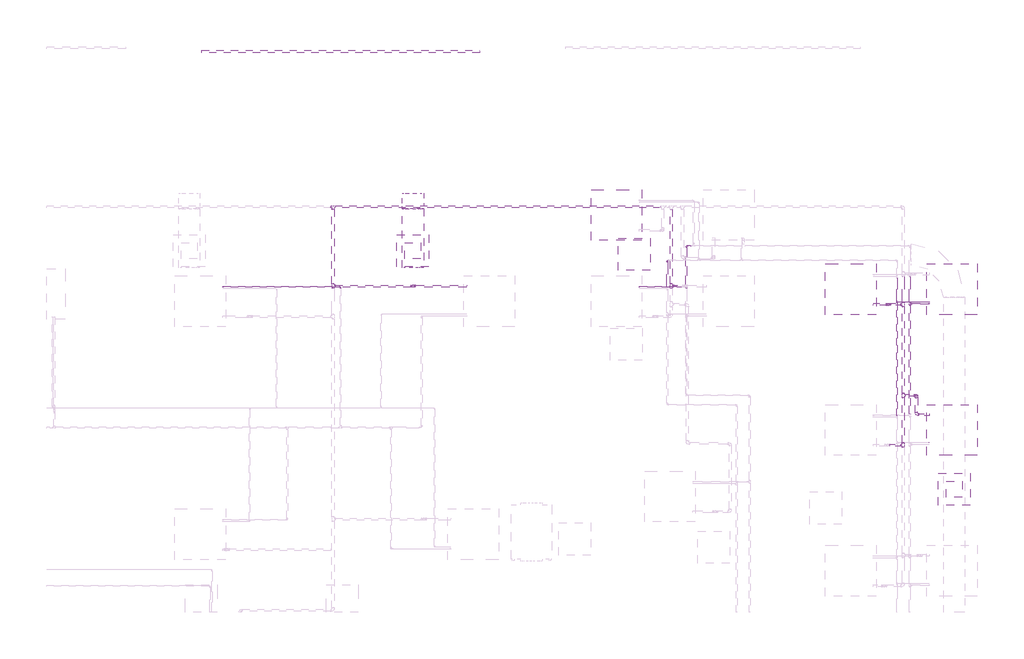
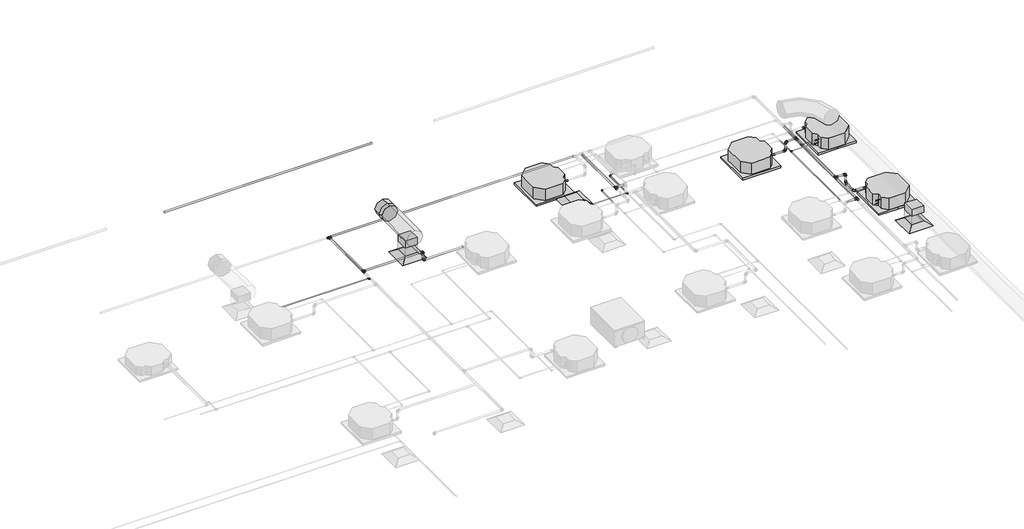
# One storey, part 21 of 22: 30 pipe segments, 26 pipe fittings, 4 proxies, 3 air terminals, 3 duct fittings, 3 duct segments.
"""IFC4 building model written with IfcOpenShell, lengths in millimetres."""

from ifc_helpers import new_model, si_unit, point, frame, frame_2d, origin, place, context, project, spatial, polyline, circle_curve, trimmed, segment, composite_curve, outline, extrude, transform, mapped, element, save
from components import air_terminal_ff221211, mechanical_equipment_53173f38, duct_fitting_2eb95573, duct_fitting_95c1ddea, pipe_fitting_144f4440, pipe_fitting_14eb6376, pipe_fitting_bdfb9b50, pipe_fitting_b7b67514, pipe_fitting_c900cfc2, pipe_fitting_16c020f5, pipe_fitting_0e110a5f, pipe_fitting_afe73776, pipe_fitting_09966660, pipe_fitting_501e5992, pipe_fitting_58ab9b66, pipe_fitting_da16c1b3, pipe_fitting_5a6d96d3, pipe_fitting_3e80353c

model = new_model("IFC4")

# Units and contexts
model_context = context("Model", 3, world=origin())
ifc_project = project(units=[si_unit("LENGTHUNIT", "METRE", prefix="MILLI")], contexts=[model_context])

# Site, building, storey
site = spatial("IfcSite", under=ifc_project)
building = spatial("IfcBuilding", under=site)
storey = spatial("IfcBuildingStorey", under=building, Name="Nível 2", Elevation=3880.0)

# Air terminals
placement = place(None, origin())
air_terminal_shape = air_terminal_ff221211(model_context)
element("IfcAirTerminal", 1, ObjectType="M_Difusor de retorno : 600 x 600 Face 300 x 300 Conexão", at=placement, inside=storey, context=model_context, shape_type="MappedRepresentation", body=[
    mapped(air_terminal_shape, transform((19991.1447848, 8685.9308948, 6880.0), x_axis=(-1.0, 0.0, 0.0), y_axis=(0.0, -1.0, 0.0), z_axis=(0.0, 0.0, 1.0))),
])
element("IfcAirTerminal", 2, ObjectType="M_Difusor de fornecimento : 600 x 600 Face 300 x 300 Conexão", at=placement, inside=storey, context=model_context, shape_type="MappedRepresentation", body=[
    mapped(air_terminal_shape, transform((24131.0509329, 8616.6989842, 6880.0), x_axis=(0.0, 1.0, 0.0), y_axis=(-1.0, 0.0, 0.0), z_axis=(0.0, 0.0, 1.0))),
])
element("IfcAirTerminal", 3, ObjectType="M_Difusor de fornecimento : 600 x 600 Face 300 x 300 Conexão", at=placement, inside=storey, context=model_context, shape_type="MappedRepresentation", body=[
    mapped(air_terminal_shape, transform((30114.7064473, 4222.1140408, 6880.0), x_axis=(-1.0, 0.0, 0.0), y_axis=(0.0, -1.0, 0.0), z_axis=(0.0, 0.0, 1.0))),
])

# Proxies
mechanical_equipment_shape = mechanical_equipment_53173f38(model_context)
element("IfcBuildingElementProxy", 4, Name="Midea_VRF_Indoor_4-way Cassette_MI-90(100,112,140)Q4_DHN1-D (2nd DC) : MI2-140Q4DHN1", ObjectType="Midea_VRF_Indoor_4-way Cassette_MI-90(100,112,140)Q4_DHN1-D (2nd DC) : MI2-140Q4DHN1", at=placement, inside=storey, context=model_context, shape_type="MappedRepresentation", body=[
    mapped(mechanical_equipment_shape, transform((23797.5040419, 9352.7445682, 6880.0), x_axis=(1.0, 0.0, 0.0), y_axis=(0.0, 1.0, 0.0), z_axis=(0.0, 0.0, 1.0))),
])
element("IfcBuildingElementProxy", 5, Name="Midea_VRF_Indoor_4-way Cassette_MI-90(100,112,140)Q4_DHN1-D (2nd DC) : MI2-140Q4DHN1", ObjectType="Midea_VRF_Indoor_4-way Cassette_MI-90(100,112,140)Q4_DHN1-D (2nd DC) : MI2-140Q4DHN1", at=placement, inside=storey, context=model_context, shape_type="MappedRepresentation", body=[
    mapped(mechanical_equipment_shape, transform((30073.0094066, 5335.03247, 6880.0), x_axis=(-1.0, 0.0, 0.0), y_axis=(0.0, -1.0, 0.0), z_axis=(0.0, 0.0, 1.0))),
])
element("IfcBuildingElementProxy", 6, Name="Midea_VRF_Indoor_4-way Cassette_MI-90(100,112,140)Q4_DHN1-D (2nd DC) : MI2-140Q4DHN1", ObjectType="Midea_VRF_Indoor_4-way Cassette_MI-90(100,112,140)Q4_DHN1-D (2nd DC) : MI2-140Q4DHN1", at=placement, inside=storey, context=model_context, shape_type="MappedRepresentation", body=[
    mapped(mechanical_equipment_shape, transform((28178.6922103, 7966.525628, 6880.0), x_axis=(1.0, 0.0, 0.0), y_axis=(0.0, 1.0, 0.0), z_axis=(0.0, 0.0, 1.0))),
])
element("IfcBuildingElementProxy", 7, Name="Midea_VRF_Indoor_4-way Cassette_MI-90(100,112,140)Q4_DHN1-D (2nd DC) : MI2-140Q4DHN1", ObjectType="Midea_VRF_Indoor_4-way Cassette_MI-90(100,112,140)Q4_DHN1-D (2nd DC) : MI2-140Q4DHN1", at=placement, inside=storey, context=model_context, shape_type="MappedRepresentation", body=[
    mapped(mechanical_equipment_shape, transform((30073.0094066, 7966.525628, 6880.0), x_axis=(-1.0, 0.0, 0.0), y_axis=(0.0, -1.0, 0.0), z_axis=(0.0, 0.0, 1.0))),
])

# Duct fittings
duct_fitting_shape = duct_fitting_2eb95573(model_context)
element("IfcDuctFitting", 8, ObjectType="M_Encaixe de duto redondo : Padrão", at=placement, inside=storey, context=model_context, shape_type="MappedRepresentation", body=[
    mapped(duct_fitting_shape, transform((19991.1447848, 9569.8368648, 7501.0), x_axis=(0.0, -1.0, 0.0), y_axis=(-1.0, 0.0, 0.0), z_axis=(0.0, 0.0, -1.0))),
])
duct_fitting_2_shape = duct_fitting_95c1ddea(model_context)
element("IfcDuctFitting", 9, ObjectType="M_Encaixe de duto retangular : Padrão", at=placement, inside=storey, context=model_context, shape_type="MappedRepresentation", body=[
    mapped(duct_fitting_2_shape, transform((30114.7064473, 4222.1140408, 7301.0), x_axis=(0.0, 0.0, -1.0), y_axis=(0.0, 1.0, 0.0), z_axis=(1.0, 0.0, 0.0))),
])
element("IfcDuctFitting", 10, ObjectType="M_Encaixe de duto retangular : Padrão", at=placement, inside=storey, context=model_context, shape_type="MappedRepresentation", body=[
    mapped(duct_fitting_2_shape, transform((19991.1447848, 8685.9308948, 7301.0), x_axis=(0.0, 0.0, -1.0), y_axis=(0.0, 1.0, 0.0), z_axis=(1.0, 0.0, 0.0))),
])

# Duct segments
element("IfcDuctSegment", 11, ObjectType="Raios cotovelos / torneiras", at=placement, inside=storey, context=model_context, shape_type="SweptSolid", body=[
    extrude(outline(polyline([(29964.7064473, 4072.1140408), (29964.7064473, 4372.1140408), (30264.7064473, 4372.1140408), (30264.7064473, 4072.1140408), (29964.7064473, 4072.1140408)])), frame((0.0, 0.0, 6981.6), z_axis=(0.0, 0.0, 1.0), x_axis=(1.0, 0.0, 0.0)), (0.0, 0.0, 1.0), 217.8),
])
element("IfcDuctSegment", 12, ObjectType="Torneiras / Raio curto", at=placement, inside=storey, context=model_context, shape_type="SweptSolid", body=[
    extrude(outline(composite_curve([segment(trimmed(circle_curve(frame_2d((7501.0, 19991.1447848)), 200.0), [point((7501.0, 19791.1447848))], [point((7301.0, 19991.1447848))], False, "CARTESIAN"), True, "CONTINUOUS"), segment(trimmed(circle_curve(frame_2d((7501.0, 19991.1447848)), 200.0), [point((7301.0, 19991.1447848))], [point((7501.0, 20191.1447848))], False, "CARTESIAN"), True, "CONTINUOUS"), segment(trimmed(circle_curve(frame_2d((7501.0, 19991.1447848)), 200.0), [point((7501.0, 20191.1447848))], [point((7701.0, 19991.1447848))], False, "CARTESIAN"), True, "CONTINUOUS"), segment(trimmed(circle_curve(frame_2d((7501.0, 19991.1447848)), 200.0), [point((7701.0, 19991.1447848))], [point((7501.0, 19791.1447848))], False, "CARTESIAN"), True, "CONTINUOUS")], self_intersect=False)), frame((0.0, 8369.8368648, 0.0), z_axis=(0.0, 1.0, 0.0), x_axis=(0.0, 0.0, 1.0)), (0.0, 0.0, 1.0), 1098.4),
])
element("IfcDuctSegment", 13, ObjectType="Raios cotovelos / torneiras", at=placement, inside=storey, context=model_context, shape_type="SweptSolid", body=[
    extrude(outline(polyline([(19841.1447848, 8535.9308948), (19841.1447848, 8835.9308948), (20141.1447848, 8835.9308948), (20141.1447848, 8535.9308948), (19841.1447848, 8535.9308948)])), frame((0.0, 0.0, 6981.6), z_axis=(0.0, 0.0, 1.0), x_axis=(1.0, 0.0, 0.0)), (0.0, 0.0, 1.0), 217.8),
])

# Pipe fittings
pipe_fitting_shape = pipe_fitting_144f4440(model_context)
element("IfcPipeFitting", 14, ObjectType="Cotovelo - PVC - CW : Padrão", at=placement, inside=storey, context=model_context, shape_type="MappedRepresentation", body=[
    mapped(pipe_fitting_shape, transform((29408.0094067, 5620.03247, 7132.3), x_axis=(0.0, -1.0, 0.0), y_axis=(0.9999999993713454, 0.0, 3.545855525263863e-05), z_axis=(-3.545855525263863e-05, 0.0, 0.9999999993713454))),
])
element("IfcPipeFitting", 15, ObjectType="Cotovelo - PVC - CW : Padrão", at=placement, inside=storey, context=model_context, shape_type="MappedRepresentation", body=[
    mapped(pipe_fitting_shape, transform((29408.0094067, 5980.03247, 7132.3), x_axis=(0.0, 1.0, 0.0), y_axis=(0.0, 0.0, 1.0), z_axis=(1.0, 0.0, 0.0))),
])
element("IfcPipeFitting", 16, ObjectType="Cotovelo - PVC - CW : Padrão", at=placement, inside=storey, context=model_context, shape_type="MappedRepresentation", body=[
    mapped(pipe_fitting_shape, transform((29408.0094067, 5980.03247, 7360.6313654), x_axis=(0.0, 0.0, 1.0), y_axis=(-1.0, 0.0, 0.0), z_axis=(0.0, -1.0, 0.0))),
])
element("IfcPipeFitting", 17, ObjectType="Cotovelo - PVC - CW : Padrão", at=placement, inside=storey, context=model_context, shape_type="MappedRepresentation", body=[
    mapped(pipe_fitting_shape, transform((28883.6922102, 7681.525628, 7360.6313654), x_axis=(0.0, 0.0, 1.0), y_axis=(1.0, 0.0, 0.0), z_axis=(0.0, 1.0, 0.0))),
])
element("IfcPipeFitting", 18, ObjectType="Cotovelo - PVC - CW : Padrão", at=placement, inside=storey, context=model_context, shape_type="MappedRepresentation", body=[
    mapped(pipe_fitting_shape, transform((19995.3085305, 8023.4946683, 7360.6313654), x_axis=(0.0, 0.0, 1.0), y_axis=(-1.0, 0.0, 0.0), z_axis=(0.0, -1.0, 0.0))),
])
pipe_fitting_2_shape = pipe_fitting_14eb6376(model_context)
element("IfcPipeFitting", 19, ObjectType="Tê de redução - PVC - CW : Padrão", at=placement, inside=storey, context=model_context, shape_type="MappedRepresentation", body=[
    mapped(pipe_fitting_2_shape, transform((29157.3882959, 5050.03247, 7360.6313654), x_axis=(0.0, 1.0, 0.0), y_axis=(1.0, 0.0, 0.0), z_axis=(0.0, 0.0, -1.0))),
])
element("IfcPipeFitting", 20, ObjectType="Tê de redução - PVC - CW : Padrão", at=placement, inside=storey, context=model_context, shape_type="MappedRepresentation", body=[
    mapped(pipe_fitting_2_shape, transform((29157.3882959, 5980.03247, 7360.6313654), x_axis=(0.0, 1.0, 0.0), y_axis=(-1.0, 0.0, 0.0), z_axis=(0.0, 0.0, 1.0))),
])
element("IfcPipeFitting", 21, ObjectType="Tê de redução - PVC - CW : Padrão", at=placement, inside=storey, context=model_context, shape_type="MappedRepresentation", body=[
    mapped(pipe_fitting_2_shape, transform((24822.5040418, 8023.4946683, 7360.6313654), x_axis=(0.0, 1.0, 0.0), y_axis=(-1.0, 0.0, 0.0), z_axis=(0.0, 0.0, 1.0))),
])
element("IfcPipeFitting", 22, ObjectType="Tê de redução - PVC - CW : Padrão", at=placement, inside=storey, context=model_context, shape_type="MappedRepresentation", body=[
    mapped(pipe_fitting_2_shape, transform((29157.3882959, 7681.525628, 7360.6313654), x_axis=(0.0, 1.0, 0.0), y_axis=(1.0, 0.0, 0.0), z_axis=(0.0, 0.0, -1.0))),
])
element("IfcPipeFitting", 23, ObjectType="Tê de redução - PVC - CW : Padrão", at=placement, inside=storey, context=model_context, shape_type="MappedRepresentation", body=[
    mapped(pipe_fitting_2_shape, transform((18498.0303831, 9508.652743, 7360.6313654), x_axis=(1.0, 0.0, 0.0), y_axis=(0.0, 1.0, 0.0), z_axis=(0.0, 0.0, 1.0))),
])
element("IfcPipeFitting", 24, ObjectType="Tê de redução - PVC - CW : Padrão", at=placement, inside=storey, context=model_context, shape_type="MappedRepresentation", body=[
    mapped(pipe_fitting_2_shape, transform((18498.0303831, 8023.4946683, 7360.6313654), x_axis=(0.0, 1.0, 0.0), y_axis=(-1.0, 0.0, 0.0), z_axis=(0.0, 0.0, 1.0))),
])
pipe_fitting_3_shape = pipe_fitting_bdfb9b50(model_context)
element("IfcPipeFitting", 25, ObjectType="Cotovelo - PVC - CW : Padrão", at=placement, inside=storey, context=model_context, shape_type="MappedRepresentation", body=[
    mapped(pipe_fitting_3_shape, transform((19995.3085305, 8023.4946683, 7132.3), x_axis=(-0.9999999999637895, 0.0, -8.510053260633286e-06), y_axis=(-8.510053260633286e-06, 0.0, 0.9999999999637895), z_axis=(0.0, 1.0, 0.0))),
])
pipe_fitting_4_shape = pipe_fitting_b7b67514(model_context)
element("IfcPipeFitting", 26, ObjectType="Cotovelo - PVC - CW : Padrão", at=placement, inside=storey, context=model_context, shape_type="MappedRepresentation", body=[
    mapped(pipe_fitting_4_shape, transform((28883.6922102, 7681.525628, 7132.3), x_axis=(0.9999999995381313, 0.0, -3.0393047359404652e-05), y_axis=(3.0393047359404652e-05, 0.0, 0.9999999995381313), z_axis=(0.0, -1.0, 0.0))),
])
pipe_fitting_5_shape = pipe_fitting_c900cfc2(model_context)
element("IfcPipeFitting", 27, ObjectType="Bucha de redução reta - Soldada - CU : Padrão", at=placement, inside=storey, context=model_context, shape_type="MappedRepresentation", body=[
    mapped(pipe_fitting_5_shape, transform((16439.3184177, 8011.7054819, 7132.3085101), x_axis=(1.0, 0.0, 0.0), y_axis=(0.0, 1.0, 0.0), z_axis=(0.0, 0.0, 1.0))),
])
pipe_fitting_6_shape = pipe_fitting_16c020f5(model_context)
element("IfcPipeFitting", 28, ObjectType="Cotovelo - Soldado - CU : Padrão", at=placement, inside=storey, context=model_context, shape_type="MappedRepresentation", body=[
    mapped(pipe_fitting_6_shape, transform((18639.3184177, 8011.7054819, 7132.3), x_axis=(0.0, 1.0, 0.0), y_axis=(-0.9999999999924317, 0.0, 3.890592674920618e-06), z_axis=(3.890592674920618e-06, 0.0, 0.9999999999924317))),
])
pipe_fitting_7_shape = pipe_fitting_0e110a5f(model_context)
element("IfcPipeFitting", 29, ObjectType="Cotovelo - Soldado - CU : Padrão", at=placement, inside=storey, context=model_context, shape_type="MappedRepresentation", body=[
    mapped(pipe_fitting_7_shape, transform((25106.1108591, 8779.9222462, 7132.3), x_axis=(-1.0, 0.0, 0.0), y_axis=(0.0, -1.0, 0.0), z_axis=(0.0, 0.0, 1.0))),
])
pipe_fitting_8_shape = pipe_fitting_afe73776(model_context)
element("IfcPipeFitting", 30, ObjectType="Bucha de redução reta - Soldada - CU : Padrão", at=placement, inside=storey, context=model_context, shape_type="MappedRepresentation", body=[
    mapped(pipe_fitting_8_shape, transform((29316.2713591, 7693.3148144, 7132.3007154), x_axis=(0.9999999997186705, 0.0, 2.3720434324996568e-05), y_axis=(0.0, 1.0, 0.0), z_axis=(-2.3720434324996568e-05, 0.0, 0.9999999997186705))),
])
pipe_fitting_9_shape = pipe_fitting_09966660(model_context)
element("IfcPipeFitting", 31, ObjectType="Tê - Soldado - CU : Padrão", at=placement, inside=storey, context=model_context, shape_type="MappedRepresentation", body=[
    mapped(pipe_fitting_9_shape, transform((25106.1108591, 8011.7054819, 7132.3), x_axis=(0.0, 1.0, 0.0), y_axis=(0.9999999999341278, 0.0, -1.1478001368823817e-05), z_axis=(-1.1478001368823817e-05, 0.0, -0.9999999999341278))),
])
element("IfcPipeFitting", 32, ObjectType="Tê - Soldado - CU : Padrão", at=placement, inside=storey, context=model_context, shape_type="MappedRepresentation", body=[
    mapped(pipe_fitting_9_shape, transform((29286.1108591, 7693.3148144, 7132.3), x_axis=(0.0, -1.0, 0.0), y_axis=(-0.9999999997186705, 0.0, -2.3720434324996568e-05), z_axis=(2.3720434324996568e-05, 0.0, -0.9999999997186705))),
])
pipe_fitting_10_shape = pipe_fitting_501e5992(model_context)
element("IfcPipeFitting", 33, ObjectType="Bucha de redução reta - Soldada - CU : Padrão", at=placement, inside=storey, context=model_context, shape_type="MappedRepresentation", body=[
    mapped(pipe_fitting_10_shape, transform((24235.1629419, 8011.7054819, 7132.3083667), x_axis=(-0.999999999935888, 0.0, 1.1323611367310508e-05), y_axis=(0.0, -1.0, 0.0), z_axis=(1.1323611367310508e-05, 0.0, 0.999999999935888))),
])
element("IfcPipeFitting", 34, ObjectType="Bucha de redução reta - Soldada - CU : Padrão", at=placement, inside=storey, context=model_context, shape_type="MappedRepresentation", body=[
    mapped(pipe_fitting_10_shape, transform((29635.3505066, 7693.3148144, 7132.3082004), x_axis=(0.9999999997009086, 0.0, 2.4457778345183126e-05), y_axis=(0.0, 1.0, 0.0), z_axis=(-2.4457778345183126e-05, 0.0, 0.9999999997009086))),
])
pipe_fitting_11_shape = pipe_fitting_58ab9b66(model_context)
element("IfcPipeFitting", 35, ObjectType="Bucha de redução reta - Soldada - CU : Padrão", at=placement, inside=storey, context=model_context, shape_type="MappedRepresentation", body=[
    mapped(pipe_fitting_11_shape, transform((29638.3350066, 5095.6240981, 7026.8446487), x_axis=(1.0, 0.0, 0.0), y_axis=(0.0, 1.0, 0.0), z_axis=(0.0, 0.0, 1.0))),
])
element("IfcPipeFitting", 36, ObjectType="Bucha de redução reta - Soldada - CU : Padrão", at=placement, inside=storey, context=model_context, shape_type="MappedRepresentation", body=[
    mapped(pipe_fitting_11_shape, transform((29638.3350066, 7727.1172562, 7026.8446487), x_axis=(1.0, 0.0, 0.0), y_axis=(0.0, 1.0, 0.0), z_axis=(0.0, 0.0, 1.0))),
])
pipe_fitting_12_shape = pipe_fitting_da16c1b3(model_context)
element("IfcPipeFitting", 37, ObjectType="Tê - Soldado - CU : Padrão", at=placement, inside=storey, context=model_context, shape_type="MappedRepresentation", body=[
    mapped(pipe_fitting_12_shape, transform((29046.1108592, 7727.1172562, 7026.8446487), x_axis=(0.0, -1.0, 0.0), y_axis=(-1.0, 0.0, 0.0), z_axis=(0.0, 0.0, -1.0))),
])
pipe_fitting_13_shape = pipe_fitting_5a6d96d3(model_context)
element("IfcPipeFitting", 38, ObjectType="Bucha de redução reta - Soldada - CU : Padrão", at=placement, inside=storey, context=model_context, shape_type="MappedRepresentation", body=[
    mapped(pipe_fitting_13_shape, transform((29071.1278592, 7727.1172562, 7026.8446487), x_axis=(1.0, 0.0, 0.0), y_axis=(0.0, 1.0, 0.0), z_axis=(0.0, 0.0, 1.0))),
])
pipe_fitting_14_shape = pipe_fitting_3e80353c(model_context)
element("IfcPipeFitting", 39, ObjectType="Cotovelo - Soldado - CU : Padrão", at=placement, inside=storey, context=model_context, shape_type="MappedRepresentation", body=[
    mapped(pipe_fitting_14_shape, transform((24746.1108592, 8506.1198044, 7026.8446487), x_axis=(-1.0, 0.0, 0.0), y_axis=(0.0, -1.0, 0.0), z_axis=(0.0, 0.0, 1.0))),
])

# Pipe segments
element("IfcPipeSegment", 40, ObjectType="Tubos de cobre HVAC", at=placement, inside=storey, context=model_context, shape_type="SweptSolid", body=[
    extrude(outline(composite_curve([segment(trimmed(circle_curve(frame_2d((8779.9222462, 7132.3)), 9.525), [point((8789.4472462, 7132.3))], [point((8779.9222462, 7122.775))], False, "CARTESIAN"), True, "CONTINUOUS"), segment(trimmed(circle_curve(frame_2d((8779.9222462, 7132.3)), 9.525), [point((8779.9222462, 7122.775))], [point((8770.3972462, 7132.3))], False, "CARTESIAN"), True, "CONTINUOUS"), segment(trimmed(circle_curve(frame_2d((8779.9222462, 7132.3)), 9.525), [point((8770.3972462, 7132.3))], [point((8779.9222462, 7141.825))], False, "CARTESIAN"), True, "CONTINUOUS"), segment(trimmed(circle_curve(frame_2d((8779.9222462, 7132.3)), 9.525), [point((8779.9222462, 7141.825))], [point((8789.4472462, 7132.3))], False, "CARTESIAN"), True, "CONTINUOUS")], self_intersect=False)), frame((25137.5698591, 0.0, 0.0), z_axis=(1.0, 0.0, 0.0), x_axis=(0.0, 1.0, 0.0)), (0.0, 0.0, 1.0), 74.7389327),
])
element("IfcPipeSegment", 41, ObjectType="Tubos de cobre HVAC", at=placement, inside=storey, context=model_context, shape_type="SweptSolid", body=[
    extrude(outline(composite_curve([segment(trimmed(circle_curve(frame_2d((0.0, 7.935)), 7.935), [point((-7.935, 7.935))], [point((0.0, 15.87))], False, "CARTESIAN"), True, "CONTINUOUS"), segment(trimmed(circle_curve(frame_2d((0.0, 7.935)), 7.935), [point((0.0, 15.87))], [point((7.935, 7.935))], False, "CARTESIAN"), True, "CONTINUOUS"), segment(trimmed(circle_curve(frame_2d((0.0, 7.935)), 7.935), [point((7.935, 7.935))], [point((0.0, 0.0))], False, "CARTESIAN"), True, "CONTINUOUS"), segment(trimmed(circle_curve(frame_2d((0.0, 7.935)), 7.935), [point((0.0, 0.0))], [point((-7.935, 7.935))], False, "CARTESIAN"), True, "CONTINUOUS")], self_intersect=False)), frame((25063.2913823, 8011.7054819, 7124.3654915), z_axis=(-0.999999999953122, 0.0, 9.682762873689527e-06), x_axis=(0.0, -1.0, 0.0)), (0.0, 0.0, 1.0), 828.1285173),
])
element("IfcPipeSegment", 42, ObjectType="Tubos de cobre HVAC", at=placement, inside=storey, context=model_context, shape_type="SweptSolid", body=[
    extrude(outline(composite_curve([segment(trimmed(circle_curve(frame_2d((7132.3, 25106.1108591)), 9.525), [point((7132.3, 25096.5858591))], [point((7122.775, 25106.1108591))], False, "CARTESIAN"), True, "CONTINUOUS"), segment(trimmed(circle_curve(frame_2d((7132.3, 25106.1108591)), 9.525), [point((7122.775, 25106.1108591))], [point((7132.3, 25115.6358591))], False, "CARTESIAN"), True, "CONTINUOUS"), segment(trimmed(circle_curve(frame_2d((7132.3, 25106.1108591)), 9.525), [point((7132.3, 25115.6358591))], [point((7141.825, 25106.1108591))], False, "CARTESIAN"), True, "CONTINUOUS"), segment(trimmed(circle_curve(frame_2d((7132.3, 25106.1108591)), 9.525), [point((7141.825, 25106.1108591))], [point((7132.3, 25096.5858591))], False, "CARTESIAN"), True, "CONTINUOUS")], self_intersect=False)), frame((0.0, 8041.9007319, 0.0), z_axis=(0.0, 1.0, 0.0), x_axis=(0.0, 0.0, 1.0)), (0.0, 0.0, 1.0), 706.5625143),
])
element("IfcPipeSegment", 43, ObjectType="Tubos de cobre HVAC", at=placement, inside=storey, context=model_context, shape_type="SweptSolid", body=[
    extrude(outline(composite_curve([segment(trimmed(circle_curve(frame_2d((7132.3, 29286.1108591)), 9.525), [point((7132.3, 29295.6358591))], [point((7141.825, 29286.1108591))], False, "CARTESIAN"), True, "CONTINUOUS"), segment(trimmed(circle_curve(frame_2d((7132.3, 29286.1108591)), 9.525), [point((7141.825, 29286.1108591))], [point((7132.3, 29276.5858591))], False, "CARTESIAN"), True, "CONTINUOUS"), segment(trimmed(circle_curve(frame_2d((7132.3, 29286.1108591)), 9.525), [point((7132.3, 29276.5858591))], [point((7122.775, 29286.1108591))], False, "CARTESIAN"), True, "CONTINUOUS"), segment(trimmed(circle_curve(frame_2d((7132.3, 29286.1108591)), 9.525), [point((7122.775, 29286.1108591))], [point((7132.3, 29295.6358591))], False, "CARTESIAN"), True, "CONTINUOUS")], self_intersect=False)), frame((0.0, 7723.5100644, 0.0), z_axis=(0.0, 1.0, 0.0), x_axis=(0.0, 0.0, 1.0)), (0.0, 0.0, 1.0), 486.0311273),
])
element("IfcPipeSegment", 44, ObjectType="Tubos de cobre HVAC", at=placement, inside=storey, context=model_context, shape_type="SweptSolid", body=[
    extrude(outline(composite_curve([segment(trimmed(circle_curve(frame_2d((0.0, 7.935)), 7.935), [point((-7.935, 7.935))], [point((0.0, 15.87))], False, "CARTESIAN"), True, "CONTINUOUS"), segment(trimmed(circle_curve(frame_2d((0.0, 7.935)), 7.935), [point((0.0, 15.87))], [point((7.935, 7.935))], False, "CARTESIAN"), True, "CONTINUOUS"), segment(trimmed(circle_curve(frame_2d((0.0, 7.935)), 7.935), [point((7.935, 7.935))], [point((0.0, 0.0))], False, "CARTESIAN"), True, "CONTINUOUS"), segment(trimmed(circle_curve(frame_2d((0.0, 7.935)), 7.935), [point((0.0, 0.0))], [point((-7.935, 7.935))], False, "CARTESIAN"), True, "CONTINUOUS")], self_intersect=False)), frame((29328.9304452, 7693.3148144, 7124.3660157), z_axis=(0.9999999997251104, 0.0, 2.3447373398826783e-05), x_axis=(0.0, 1.0, 0.0)), (0.0, 0.0, 1.0), 306.4202475),
])
element("IfcPipeSegment", 45, ObjectType="Tubos de cobre HVAC", at=placement, inside=storey, context=model_context, shape_type="SweptSolid", body=[
    extrude(outline(composite_curve([segment(trimmed(circle_curve(frame_2d((7132.3, 29286.1108591)), 9.525), [point((7132.3, 29295.6358591))], [point((7141.825, 29286.1108591))], False, "CARTESIAN"), True, "CONTINUOUS"), segment(trimmed(circle_curve(frame_2d((7132.3, 29286.1108591)), 9.525), [point((7141.825, 29286.1108591))], [point((7132.3, 29276.5858591))], False, "CARTESIAN"), True, "CONTINUOUS"), segment(trimmed(circle_curve(frame_2d((7132.3, 29286.1108591)), 9.525), [point((7132.3, 29276.5858591))], [point((7122.775, 29286.1108591))], False, "CARTESIAN"), True, "CONTINUOUS"), segment(trimmed(circle_curve(frame_2d((7132.3, 29286.1108591)), 9.525), [point((7122.775, 29286.1108591))], [point((7132.3, 29295.6358591))], False, "CARTESIAN"), True, "CONTINUOUS")], self_intersect=False)), frame((0.0, 5638.4385336, 0.0), z_axis=(0.0, 1.0, 0.0), x_axis=(0.0, 0.0, 1.0)), (0.0, 0.0, 1.0), 2024.6810307),
])
element("IfcPipeSegment", 46, ObjectType="Tubos de cobre HVAC", at=placement, inside=storey, context=model_context, shape_type="SweptSolid", body=[
    extrude(outline(composite_curve([segment(trimmed(circle_curve(frame_2d((7026.8446487, 29046.1108592)), 6.35), [point((7026.8446487, 29052.4608592))], [point((7033.1946487, 29046.1108592))], False, "CARTESIAN"), True, "CONTINUOUS"), segment(trimmed(circle_curve(frame_2d((7026.8446487, 29046.1108592)), 6.35), [point((7033.1946487, 29046.1108592))], [point((7026.8446487, 29039.7608592))], False, "CARTESIAN"), True, "CONTINUOUS"), segment(trimmed(circle_curve(frame_2d((7026.8446487, 29046.1108592)), 6.35), [point((7026.8446487, 29039.7608592))], [point((7020.4946487, 29046.1108592))], False, "CARTESIAN"), True, "CONTINUOUS"), segment(trimmed(circle_curve(frame_2d((7026.8446487, 29046.1108592)), 6.35), [point((7020.4946487, 29046.1108592))], [point((7026.8446487, 29052.4608592))], False, "CARTESIAN"), True, "CONTINUOUS")], self_intersect=False)), frame((0.0, 7752.2007562, 0.0), z_axis=(0.0, 1.0, 0.0), x_axis=(0.0, 0.0, 1.0)), (0.0, 0.0, 1.0), 428.6497437),
])
element("IfcPipeSegment", 47, ObjectType="Tubos de cobre HVAC", at=placement, inside=storey, context=model_context, shape_type="SweptSolid", body=[
    extrude(outline(composite_curve([segment(trimmed(circle_curve(frame_2d((7727.1172562, 7026.8446487)), 4.76), [point((7722.3572562, 7026.8446487))], [point((7727.1172562, 7031.6046487))], False, "CARTESIAN"), True, "CONTINUOUS"), segment(trimmed(circle_curve(frame_2d((7727.1172562, 7026.8446487)), 4.76), [point((7727.1172562, 7031.6046487))], [point((7731.8772562, 7026.8446487))], False, "CARTESIAN"), True, "CONTINUOUS"), segment(trimmed(circle_curve(frame_2d((7727.1172562, 7026.8446487)), 4.76), [point((7731.8772562, 7026.8446487))], [point((7727.1172562, 7022.0846487))], False, "CARTESIAN"), True, "CONTINUOUS"), segment(trimmed(circle_curve(frame_2d((7727.1172562, 7026.8446487)), 4.76), [point((7727.1172562, 7022.0846487))], [point((7722.3572562, 7026.8446487))], False, "CARTESIAN"), True, "CONTINUOUS")], self_intersect=False)), frame((29080.8022592, 0.0, 0.0), z_axis=(1.0, 0.0, 0.0), x_axis=(0.0, 1.0, 0.0)), (0.0, 0.0, 1.0), 557.5327474),
])
element("IfcPipeSegment", 48, ObjectType="Tubos de cobre HVAC", at=placement, inside=storey, context=model_context, shape_type="SweptSolid", body=[
    extrude(outline(composite_curve([segment(trimmed(circle_curve(frame_2d((7026.8446487, 29046.1108592)), 6.35), [point((7026.8446487, 29052.4608592))], [point((7033.1946487, 29046.1108592))], False, "CARTESIAN"), True, "CONTINUOUS"), segment(trimmed(circle_curve(frame_2d((7026.8446487, 29046.1108592)), 6.35), [point((7033.1946487, 29046.1108592))], [point((7026.8446487, 29039.7608592))], False, "CARTESIAN"), True, "CONTINUOUS"), segment(trimmed(circle_curve(frame_2d((7026.8446487, 29046.1108592)), 6.35), [point((7026.8446487, 29039.7608592))], [point((7020.4946487, 29046.1108592))], False, "CARTESIAN"), True, "CONTINUOUS"), segment(trimmed(circle_curve(frame_2d((7026.8446487, 29046.1108592)), 6.35), [point((7020.4946487, 29046.1108592))], [point((7026.8446487, 29052.4608592))], False, "CARTESIAN"), True, "CONTINUOUS")], self_intersect=False)), frame((0.0, 5599.5243418, 0.0), z_axis=(0.0, 1.0, 0.0), x_axis=(0.0, 0.0, 1.0)), (0.0, 0.0, 1.0), 2102.5094144),
])
element("IfcPipeSegment", 49, ObjectType="Tubos de cobre HVAC", at=placement, inside=storey, context=model_context, shape_type="SweptSolid", body=[
    extrude(outline(composite_curve([segment(trimmed(circle_curve(frame_2d((7026.8446487, 24746.1108592)), 6.35), [point((7026.8446487, 24739.7608592))], [point((7020.4946487, 24746.1108592))], False, "CARTESIAN"), True, "CONTINUOUS"), segment(trimmed(circle_curve(frame_2d((7026.8446487, 24746.1108592)), 6.35), [point((7020.4946487, 24746.1108592))], [point((7026.8446487, 24752.4608592))], False, "CARTESIAN"), True, "CONTINUOUS"), segment(trimmed(circle_curve(frame_2d((7026.8446487, 24746.1108592)), 6.35), [point((7026.8446487, 24752.4608592))], [point((7033.1946487, 24746.1108592))], False, "CARTESIAN"), True, "CONTINUOUS"), segment(trimmed(circle_curve(frame_2d((7026.8446487, 24746.1108592)), 6.35), [point((7033.1946487, 24746.1108592))], [point((7026.8446487, 24739.7608592))], False, "CARTESIAN"), True, "CONTINUOUS")], self_intersect=False)), frame((0.0, 8002.9865401, 0.0), z_axis=(0.0, 1.0, 0.0), x_axis=(0.0, 0.0, 1.0)), (0.0, 0.0, 1.0), 476.6272643),
])
element("IfcPipeSegment", 50, ObjectType="Tubos de cobre HVAC", at=placement, inside=storey, context=model_context, shape_type="SweptSolid", body=[
    extrude(outline(composite_curve([segment(trimmed(circle_curve(frame_2d((0.0, -7.935)), 7.935), [point((-7.935, -7.935))], [point((0.0, 0.0))], False, "CARTESIAN"), True, "CONTINUOUS"), segment(trimmed(circle_curve(frame_2d((0.0, -7.935)), 7.935), [point((0.0, 0.0))], [point((7.935, -7.935))], False, "CARTESIAN"), True, "CONTINUOUS"), segment(trimmed(circle_curve(frame_2d((0.0, -7.935)), 7.935), [point((7.935, -7.935))], [point((0.0, -15.87))], False, "CARTESIAN"), True, "CONTINUOUS"), segment(trimmed(circle_curve(frame_2d((0.0, -7.935)), 7.935), [point((0.0, -15.87))], [point((-7.935, -7.935))], False, "CARTESIAN"), True, "CONTINUOUS")], self_intersect=False)), frame((18610.3397868, 8011.7054819, 7124.3651127), z_axis=(-0.9999999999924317, 0.0, 3.890592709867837e-06), x_axis=(0.0, 1.0, 0.0)), (0.0, 0.0, 1.0), 2158.3625),
])
element("IfcPipeSegment", 51, ObjectType="Plástico", at=placement, inside=storey, context=model_context, shape_type="SweptSolid", body=[
    extrude(outline(composite_curve([segment(trimmed(circle_curve(frame_2d((5050.03247, 7360.6313654)), 20.0), [point((5070.03247, 7360.6313654))], [point((5050.03247, 7340.6313654))], False, "CARTESIAN"), True, "CONTINUOUS"), segment(trimmed(circle_curve(frame_2d((5050.03247, 7360.6313654)), 20.0), [point((5050.03247, 7340.6313654))], [point((5030.03247, 7360.6313654))], False, "CARTESIAN"), True, "CONTINUOUS"), segment(trimmed(circle_curve(frame_2d((5050.03247, 7360.6313654)), 20.0), [point((5030.03247, 7360.6313654))], [point((5050.03247, 7380.6313654))], False, "CARTESIAN"), True, "CONTINUOUS"), segment(trimmed(circle_curve(frame_2d((5050.03247, 7360.6313654)), 20.0), [point((5050.03247, 7380.6313654))], [point((5070.03247, 7360.6313654))], False, "CARTESIAN"), True, "CONTINUOUS")], self_intersect=False)), frame((28908.6922102, 0.0, 0.0), z_axis=(1.0, 0.0, 0.0), x_axis=(0.0, 1.0, 0.0)), (0.0, 0.0, 1.0), 204.6960857),
])
element("IfcPipeSegment", 52, ObjectType="Plástico", at=placement, inside=storey, context=model_context, shape_type="SweptSolid", body=[
    extrude(outline(composite_curve([segment(trimmed(circle_curve(frame_2d((7360.6313654, 29157.3882959)), 20.0), [point((7360.6313654, 29137.3882959))], [point((7340.6313654, 29157.3882959))], False, "CARTESIAN"), True, "CONTINUOUS"), segment(trimmed(circle_curve(frame_2d((7360.6313654, 29157.3882959)), 20.0), [point((7340.6313654, 29157.3882959))], [point((7360.6313654, 29177.3882959))], False, "CARTESIAN"), True, "CONTINUOUS"), segment(trimmed(circle_curve(frame_2d((7360.6313654, 29157.3882959)), 20.0), [point((7360.6313654, 29177.3882959))], [point((7380.6313654, 29157.3882959))], False, "CARTESIAN"), True, "CONTINUOUS"), segment(trimmed(circle_curve(frame_2d((7360.6313654, 29157.3882959)), 20.0), [point((7380.6313654, 29157.3882959))], [point((7360.6313654, 29137.3882959))], False, "CARTESIAN"), True, "CONTINUOUS")], self_intersect=False)), frame((0.0, 5093.28247, 0.0), z_axis=(0.0, 1.0, 0.0), x_axis=(0.0, 0.0, 1.0)), (0.0, 0.0, 1.0), 843.5),
])
element("IfcPipeSegment", 53, ObjectType="Plástico", at=placement, inside=storey, context=model_context, shape_type="SweptSolid", body=[
    extrude(outline(composite_curve([segment(trimmed(circle_curve(frame_2d((0.0, -20.0)), 20.0), [point((-20.0, -20.0))], [point((0.0, 0.0))], False, "CARTESIAN"), True, "CONTINUOUS"), segment(trimmed(circle_curve(frame_2d((0.0, -20.0)), 20.0), [point((0.0, 0.0))], [point((20.0, -20.0))], False, "CARTESIAN"), True, "CONTINUOUS"), segment(trimmed(circle_curve(frame_2d((0.0, -20.0)), 20.0), [point((20.0, -20.0))], [point((0.0, -40.0))], False, "CARTESIAN"), True, "CONTINUOUS"), segment(trimmed(circle_curve(frame_2d((0.0, -20.0)), 20.0), [point((0.0, -40.0))], [point((-20.0, -20.0))], False, "CARTESIAN"), True, "CONTINUOUS")], self_intersect=False)), frame((29453.0101159, 5620.03247, 7112.3015956), z_axis=(0.9999999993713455, 0.0, 3.545855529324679e-05), x_axis=(0.0, -1.0, 0.0)), (0.0, 0.0, 1.0), 195.0),
])
element("IfcPipeSegment", 54, ObjectType="Plástico", at=placement, inside=storey, context=model_context, shape_type="SweptSolid", body=[
    extrude(outline(composite_curve([segment(trimmed(circle_curve(frame_2d((7132.3, 29408.0094067)), 20.0), [point((7132.3, 29428.0094067))], [point((7152.3, 29408.0094067))], False, "CARTESIAN"), True, "CONTINUOUS"), segment(trimmed(circle_curve(frame_2d((7132.3, 29408.0094067)), 20.0), [point((7152.3, 29408.0094067))], [point((7132.3, 29388.0094067))], False, "CARTESIAN"), True, "CONTINUOUS"), segment(trimmed(circle_curve(frame_2d((7132.3, 29408.0094067)), 20.0), [point((7132.3, 29388.0094067))], [point((7112.3, 29408.0094067))], False, "CARTESIAN"), True, "CONTINUOUS"), segment(trimmed(circle_curve(frame_2d((7132.3, 29408.0094067)), 20.0), [point((7112.3, 29408.0094067))], [point((7132.3, 29428.0094067))], False, "CARTESIAN"), True, "CONTINUOUS")], self_intersect=False)), frame((0.0, 5665.03247, 0.0), z_axis=(0.0, 1.0, 0.0), x_axis=(0.0, 0.0, 1.0)), (0.0, 0.0, 1.0), 270.0),
])
element("IfcPipeSegment", 55, ObjectType="Plástico", at=placement, inside=storey, context=model_context, shape_type="SweptSolid", body=[
    extrude(outline(composite_curve([segment(trimmed(circle_curve(frame_2d((29408.0094067, 5980.03247)), 20.0), [point((29428.0094067, 5980.03247))], [point((29408.0094067, 5960.03247))], False, "CARTESIAN"), True, "CONTINUOUS"), segment(trimmed(circle_curve(frame_2d((29408.0094067, 5980.03247)), 20.0), [point((29408.0094067, 5960.03247))], [point((29388.0094067, 5980.03247))], False, "CARTESIAN"), True, "CONTINUOUS"), segment(trimmed(circle_curve(frame_2d((29408.0094067, 5980.03247)), 20.0), [point((29388.0094067, 5980.03247))], [point((29408.0094067, 6000.03247))], False, "CARTESIAN"), True, "CONTINUOUS"), segment(trimmed(circle_curve(frame_2d((29408.0094067, 5980.03247)), 20.0), [point((29408.0094067, 6000.03247))], [point((29428.0094067, 5980.03247))], False, "CARTESIAN"), True, "CONTINUOUS")], self_intersect=False)), frame((0.0, 0.0, 7177.3), z_axis=(0.0, 0.0, 1.0), x_axis=(1.0, 0.0, 0.0)), (0.0, 0.0, 1.0), 138.3313654),
])
element("IfcPipeSegment", 56, ObjectType="Plástico", at=placement, inside=storey, context=model_context, shape_type="SweptSolid", body=[
    extrude(outline(composite_curve([segment(trimmed(circle_curve(frame_2d((5980.03247, 7360.6313654)), 20.0), [point((5960.03247, 7360.6313654))], [point((5980.03247, 7380.6313654))], False, "CARTESIAN"), True, "CONTINUOUS"), segment(trimmed(circle_curve(frame_2d((5980.03247, 7360.6313654)), 20.0), [point((5980.03247, 7380.6313654))], [point((6000.03247, 7360.6313654))], False, "CARTESIAN"), True, "CONTINUOUS"), segment(trimmed(circle_curve(frame_2d((5980.03247, 7360.6313654)), 20.0), [point((6000.03247, 7360.6313654))], [point((5980.03247, 7340.6313654))], False, "CARTESIAN"), True, "CONTINUOUS"), segment(trimmed(circle_curve(frame_2d((5980.03247, 7360.6313654)), 20.0), [point((5980.03247, 7340.6313654))], [point((5960.03247, 7360.6313654))], False, "CARTESIAN"), True, "CONTINUOUS")], self_intersect=False)), frame((29201.3882959, 0.0, 0.0), z_axis=(1.0, 0.0, 0.0), x_axis=(0.0, 1.0, 0.0)), (0.0, 0.0, 1.0), 161.6211108),
])
element("IfcPipeSegment", 57, ObjectType="Plástico", at=placement, inside=storey, context=model_context, shape_type="SweptSolid", body=[
    extrude(outline(composite_curve([segment(trimmed(circle_curve(frame_2d((7360.6313654, 29157.3882959)), 20.0), [point((7360.6313654, 29137.3882959))], [point((7340.6313654, 29157.3882959))], False, "CARTESIAN"), True, "CONTINUOUS"), segment(trimmed(circle_curve(frame_2d((7360.6313654, 29157.3882959)), 20.0), [point((7340.6313654, 29157.3882959))], [point((7360.6313654, 29177.3882959))], False, "CARTESIAN"), True, "CONTINUOUS"), segment(trimmed(circle_curve(frame_2d((7360.6313654, 29157.3882959)), 20.0), [point((7360.6313654, 29177.3882959))], [point((7380.6313654, 29157.3882959))], False, "CARTESIAN"), True, "CONTINUOUS"), segment(trimmed(circle_curve(frame_2d((7360.6313654, 29157.3882959)), 20.0), [point((7380.6313654, 29157.3882959))], [point((7360.6313654, 29137.3882959))], False, "CARTESIAN"), True, "CONTINUOUS")], self_intersect=False)), frame((0.0, 6023.28247, 0.0), z_axis=(0.0, 1.0, 0.0), x_axis=(0.0, 0.0, 1.0)), (0.0, 0.0, 1.0), 1614.9931581),
])
element("IfcPipeSegment", 58, ObjectType="Plástico", at=placement, inside=storey, context=model_context, shape_type="SweptSolid", body=[
    extrude(outline(composite_curve([segment(trimmed(circle_curve(frame_2d((8023.4946683, 7360.6313654)), 20.0), [point((8003.4946683, 7360.6313654))], [point((8023.4946683, 7380.6313654))], False, "CARTESIAN"), True, "CONTINUOUS"), segment(trimmed(circle_curve(frame_2d((8023.4946683, 7360.6313654)), 20.0), [point((8023.4946683, 7380.6313654))], [point((8043.4946683, 7360.6313654))], False, "CARTESIAN"), True, "CONTINUOUS"), segment(trimmed(circle_curve(frame_2d((8023.4946683, 7360.6313654)), 20.0), [point((8043.4946683, 7360.6313654))], [point((8023.4946683, 7340.6313654))], False, "CARTESIAN"), True, "CONTINUOUS"), segment(trimmed(circle_curve(frame_2d((8023.4946683, 7360.6313654)), 20.0), [point((8023.4946683, 7340.6313654))], [point((8003.4946683, 7360.6313654))], False, "CARTESIAN"), True, "CONTINUOUS")], self_intersect=False)), frame((24866.5040418, 0.0, 0.0), z_axis=(1.0, 0.0, 0.0), x_axis=(0.0, 1.0, 0.0)), (0.0, 0.0, 1.0), 161.0000002),
])
element("IfcPipeSegment", 59, ObjectType="Plástico", at=placement, inside=storey, context=model_context, shape_type="SweptSolid", body=[
    extrude(outline(composite_curve([segment(trimmed(circle_curve(frame_2d((7360.6313654, 24822.5040418)), 20.0), [point((7360.6313654, 24802.5040418))], [point((7340.6313654, 24822.5040418))], False, "CARTESIAN"), True, "CONTINUOUS"), segment(trimmed(circle_curve(frame_2d((7360.6313654, 24822.5040418)), 20.0), [point((7340.6313654, 24822.5040418))], [point((7360.6313654, 24842.5040418))], False, "CARTESIAN"), True, "CONTINUOUS"), segment(trimmed(circle_curve(frame_2d((7360.6313654, 24822.5040418)), 20.0), [point((7360.6313654, 24842.5040418))], [point((7380.6313654, 24822.5040418))], False, "CARTESIAN"), True, "CONTINUOUS"), segment(trimmed(circle_curve(frame_2d((7360.6313654, 24822.5040418)), 20.0), [point((7380.6313654, 24822.5040418))], [point((7360.6313654, 24802.5040418))], False, "CARTESIAN"), True, "CONTINUOUS")], self_intersect=False)), frame((0.0, 8066.7446683, 0.0), z_axis=(0.0, 1.0, 0.0), x_axis=(0.0, 0.0, 1.0)), (0.0, 0.0, 1.0), 1397.9080747),
])
element("IfcPipeSegment", 60, ObjectType="Plástico", at=placement, inside=storey, context=model_context, shape_type="SweptSolid", body=[
    extrude(outline(composite_curve([segment(trimmed(circle_curve(frame_2d((0.0, -20.0)), 20.0), [point((-20.0, -20.0))], [point((0.0, 0.0))], False, "CARTESIAN"), True, "CONTINUOUS"), segment(trimmed(circle_curve(frame_2d((0.0, -20.0)), 20.0), [point((0.0, 0.0))], [point((20.0, -20.0))], False, "CARTESIAN"), True, "CONTINUOUS"), segment(trimmed(circle_curve(frame_2d((0.0, -20.0)), 20.0), [point((20.0, -20.0))], [point((0.0, -40.0))], False, "CARTESIAN"), True, "CONTINUOUS"), segment(trimmed(circle_curve(frame_2d((0.0, -20.0)), 20.0), [point((0.0, -40.0))], [point((-20.0, -20.0))], False, "CARTESIAN"), True, "CONTINUOUS")], self_intersect=False)), frame((28838.6909033, 7681.525628, 7112.3013677), z_axis=(-0.9999999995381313, 0.0, 3.039304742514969e-05), x_axis=(0.0, 1.0, 0.0)), (0.0, 0.0, 1.0), 234.9993009),
])
element("IfcPipeSegment", 61, ObjectType="Plástico", at=placement, inside=storey, context=model_context, shape_type="SweptSolid", body=[
    extrude(outline(composite_curve([segment(trimmed(circle_curve(frame_2d((28883.6922102, 7681.525628)), 20.0), [point((28903.6922102, 7681.525628))], [point((28883.6922102, 7661.525628))], False, "CARTESIAN"), True, "CONTINUOUS"), segment(trimmed(circle_curve(frame_2d((28883.6922102, 7681.525628)), 20.0), [point((28883.6922102, 7661.525628))], [point((28863.6922102, 7681.525628))], False, "CARTESIAN"), True, "CONTINUOUS"), segment(trimmed(circle_curve(frame_2d((28883.6922102, 7681.525628)), 20.0), [point((28863.6922102, 7681.525628))], [point((28883.6922102, 7701.525628))], False, "CARTESIAN"), True, "CONTINUOUS"), segment(trimmed(circle_curve(frame_2d((28883.6922102, 7681.525628)), 20.0), [point((28883.6922102, 7701.525628))], [point((28903.6922102, 7681.525628))], False, "CARTESIAN"), True, "CONTINUOUS")], self_intersect=False)), frame((0.0, 0.0, 7177.3006991), z_axis=(0.0, 0.0, 1.0), x_axis=(1.0, 0.0, 0.0)), (0.0, 0.0, 1.0), 138.3306664),
])
element("IfcPipeSegment", 62, ObjectType="Plástico", at=placement, inside=storey, context=model_context, shape_type="SweptSolid", body=[
    extrude(outline(composite_curve([segment(trimmed(circle_curve(frame_2d((7681.525628, 7360.6313654)), 20.0), [point((7701.525628, 7360.6313654))], [point((7681.525628, 7340.6313654))], False, "CARTESIAN"), True, "CONTINUOUS"), segment(trimmed(circle_curve(frame_2d((7681.525628, 7360.6313654)), 20.0), [point((7681.525628, 7340.6313654))], [point((7661.525628, 7360.6313654))], False, "CARTESIAN"), True, "CONTINUOUS"), segment(trimmed(circle_curve(frame_2d((7681.525628, 7360.6313654)), 20.0), [point((7661.525628, 7360.6313654))], [point((7681.525628, 7380.6313654))], False, "CARTESIAN"), True, "CONTINUOUS"), segment(trimmed(circle_curve(frame_2d((7681.525628, 7360.6313654)), 20.0), [point((7681.525628, 7380.6313654))], [point((7701.525628, 7360.6313654))], False, "CARTESIAN"), True, "CONTINUOUS")], self_intersect=False)), frame((28928.6922102, 0.0, 0.0), z_axis=(1.0, 0.0, 0.0), x_axis=(0.0, 1.0, 0.0)), (0.0, 0.0, 1.0), 184.6960857),
])
element("IfcPipeSegment", 63, ObjectType="Plástico", at=placement, inside=storey, context=model_context, shape_type="SweptSolid", body=[
    extrude(outline(composite_curve([segment(trimmed(circle_curve(frame_2d((7360.6313654, 29157.3882959)), 20.0), [point((7360.6313654, 29137.3882959))], [point((7340.6313654, 29157.3882959))], False, "CARTESIAN"), True, "CONTINUOUS"), segment(trimmed(circle_curve(frame_2d((7360.6313654, 29157.3882959)), 20.0), [point((7340.6313654, 29157.3882959))], [point((7360.6313654, 29177.3882959))], False, "CARTESIAN"), True, "CONTINUOUS"), segment(trimmed(circle_curve(frame_2d((7360.6313654, 29157.3882959)), 20.0), [point((7360.6313654, 29177.3882959))], [point((7380.6313654, 29157.3882959))], False, "CARTESIAN"), True, "CONTINUOUS"), segment(trimmed(circle_curve(frame_2d((7360.6313654, 29157.3882959)), 20.0), [point((7380.6313654, 29157.3882959))], [point((7360.6313654, 29137.3882959))], False, "CARTESIAN"), True, "CONTINUOUS")], self_intersect=False)), frame((0.0, 7724.775628, 0.0), z_axis=(0.0, 1.0, 0.0), x_axis=(0.0, 0.0, 1.0)), (0.0, 0.0, 1.0), 483.5),
])
element("IfcPipeSegment", 64, ObjectType="Plástico", at=placement, inside=storey, context=model_context, shape_type="SweptSolid", body=[
    extrude(outline(composite_curve([segment(trimmed(circle_curve(frame_2d((9508.652743, 7360.6313654)), 20.0), [point((9528.652743, 7360.6313654))], [point((9508.652743, 7340.6313654))], False, "CARTESIAN"), True, "CONTINUOUS"), segment(trimmed(circle_curve(frame_2d((9508.652743, 7360.6313654)), 20.0), [point((9508.652743, 7340.6313654))], [point((9488.652743, 7360.6313654))], False, "CARTESIAN"), True, "CONTINUOUS"), segment(trimmed(circle_curve(frame_2d((9508.652743, 7360.6313654)), 20.0), [point((9488.652743, 7360.6313654))], [point((9508.652743, 7380.6313654))], False, "CARTESIAN"), True, "CONTINUOUS"), segment(trimmed(circle_curve(frame_2d((9508.652743, 7360.6313654)), 20.0), [point((9508.652743, 7380.6313654))], [point((9528.652743, 7360.6313654))], False, "CARTESIAN"), True, "CONTINUOUS")], self_intersect=False)), frame((18541.2803831, 0.0, 0.0), z_axis=(1.0, 0.0, 0.0), x_axis=(0.0, 1.0, 0.0)), (0.0, 0.0, 1.0), 6077.9736587),
])
element("IfcPipeSegment", 65, ObjectType="Plástico", at=placement, inside=storey, context=model_context, shape_type="SweptSolid", body=[
    extrude(outline(composite_curve([segment(trimmed(circle_curve(frame_2d((0.0, -20.0)), 20.0), [point((-20.0, -20.0))], [point((0.0, 0.0))], False, "CARTESIAN"), True, "CONTINUOUS"), segment(trimmed(circle_curve(frame_2d((0.0, -20.0)), 20.0), [point((0.0, 0.0))], [point((20.0, -20.0))], False, "CARTESIAN"), True, "CONTINUOUS"), segment(trimmed(circle_curve(frame_2d((0.0, -20.0)), 20.0), [point((20.0, -20.0))], [point((0.0, -40.0))], False, "CARTESIAN"), True, "CONTINUOUS"), segment(trimmed(circle_curve(frame_2d((0.0, -20.0)), 20.0), [point((0.0, -40.0))], [point((-20.0, -20.0))], False, "CARTESIAN"), True, "CONTINUOUS")], self_intersect=False)), frame((20040.3088964, 8023.4946683, 7112.300383), z_axis=(0.9999999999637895, 0.0, 8.51005330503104e-06), x_axis=(0.0, -1.0, 0.0)), (0.0, 0.0, 1.0), 954.9998043),
])
element("IfcPipeSegment", 66, ObjectType="Plástico", at=placement, inside=storey, context=model_context, shape_type="SweptSolid", body=[
    extrude(outline(composite_curve([segment(trimmed(circle_curve(frame_2d((19995.3085305, 8023.4946683)), 20.0), [point((20015.3085305, 8023.4946683))], [point((19995.3085305, 8003.4946683))], False, "CARTESIAN"), True, "CONTINUOUS"), segment(trimmed(circle_curve(frame_2d((19995.3085305, 8023.4946683)), 20.0), [point((19995.3085305, 8003.4946683))], [point((19975.3085305, 8023.4946683))], False, "CARTESIAN"), True, "CONTINUOUS"), segment(trimmed(circle_curve(frame_2d((19995.3085305, 8023.4946683)), 20.0), [point((19975.3085305, 8023.4946683))], [point((19995.3085305, 8043.4946683))], False, "CARTESIAN"), True, "CONTINUOUS"), segment(trimmed(circle_curve(frame_2d((19995.3085305, 8023.4946683)), 20.0), [point((19995.3085305, 8043.4946683))], [point((20015.3085305, 8023.4946683))], False, "CARTESIAN"), True, "CONTINUOUS")], self_intersect=False)), frame((0.0, 0.0, 7177.3001957), z_axis=(0.0, 0.0, 1.0), x_axis=(1.0, 0.0, 0.0)), (0.0, 0.0, 1.0), 138.3311697),
])
element("IfcPipeSegment", 67, ObjectType="Plástico", at=placement, inside=storey, context=model_context, shape_type="SweptSolid", body=[
    extrude(outline(composite_curve([segment(trimmed(circle_curve(frame_2d((8023.4946683, 7360.6313654)), 20.0), [point((8003.4946683, 7360.6313654))], [point((8023.4946683, 7380.6313654))], False, "CARTESIAN"), True, "CONTINUOUS"), segment(trimmed(circle_curve(frame_2d((8023.4946683, 7360.6313654)), 20.0), [point((8023.4946683, 7380.6313654))], [point((8043.4946683, 7360.6313654))], False, "CARTESIAN"), True, "CONTINUOUS"), segment(trimmed(circle_curve(frame_2d((8023.4946683, 7360.6313654)), 20.0), [point((8043.4946683, 7360.6313654))], [point((8023.4946683, 7340.6313654))], False, "CARTESIAN"), True, "CONTINUOUS"), segment(trimmed(circle_curve(frame_2d((8023.4946683, 7360.6313654)), 20.0), [point((8023.4946683, 7340.6313654))], [point((8003.4946683, 7360.6313654))], False, "CARTESIAN"), True, "CONTINUOUS")], self_intersect=False)), frame((18542.0303831, 0.0, 0.0), z_axis=(1.0, 0.0, 0.0), x_axis=(0.0, 1.0, 0.0)), (0.0, 0.0, 1.0), 1408.2781473),
])
element("IfcPipeSegment", 68, ObjectType="Plástico", at=placement, inside=storey, context=model_context, shape_type="SweptSolid", body=[
    extrude(outline(composite_curve([segment(trimmed(circle_curve(frame_2d((7360.6313654, 18498.0303831)), 20.0), [point((7360.6313654, 18478.0303831))], [point((7340.6313654, 18498.0303831))], False, "CARTESIAN"), True, "CONTINUOUS"), segment(trimmed(circle_curve(frame_2d((7360.6313654, 18498.0303831)), 20.0), [point((7340.6313654, 18498.0303831))], [point((7360.6313654, 18518.0303831))], False, "CARTESIAN"), True, "CONTINUOUS"), segment(trimmed(circle_curve(frame_2d((7360.6313654, 18498.0303831)), 20.0), [point((7360.6313654, 18518.0303831))], [point((7380.6313654, 18498.0303831))], False, "CARTESIAN"), True, "CONTINUOUS"), segment(trimmed(circle_curve(frame_2d((7360.6313654, 18498.0303831)), 20.0), [point((7380.6313654, 18498.0303831))], [point((7360.6313654, 18478.0303831))], False, "CARTESIAN"), True, "CONTINUOUS")], self_intersect=False)), frame((0.0, 8066.7446683, 0.0), z_axis=(0.0, 1.0, 0.0), x_axis=(0.0, 0.0, 1.0)), (0.0, 0.0, 1.0), 1397.9080747),
])
element("IfcPipeSegment", 69, ObjectType="Tubos de cobre HVAC", at=placement, inside=storey, context=model_context, shape_type="SweptSolid", body=[
    extrude(outline(composite_curve([segment(trimmed(circle_curve(frame_2d((12409.9850777, 7132.3)), 22.25), [point((12387.7350777, 7132.3))], [point((12409.9850777, 7154.55))], False, "CARTESIAN"), True, "CONTINUOUS"), segment(trimmed(circle_curve(frame_2d((12409.9850777, 7132.3)), 22.25), [point((12409.9850777, 7154.55))], [point((12432.2350777, 7132.3))], False, "CARTESIAN"), True, "CONTINUOUS"), segment(trimmed(circle_curve(frame_2d((12409.9850777, 7132.3)), 22.25), [point((12432.2350777, 7132.3))], [point((12409.9850777, 7110.05))], False, "CARTESIAN"), True, "CONTINUOUS"), segment(trimmed(circle_curve(frame_2d((12409.9850777, 7132.3)), 22.25), [point((12409.9850777, 7110.05))], [point((12387.7350777, 7132.3))], False, "CARTESIAN"), True, "CONTINUOUS")], self_intersect=False)), frame((16042.5573818, 0.0, 0.0), z_axis=(1.0, 0.0, 0.0), x_axis=(0.0, 1.0, 0.0)), (0.0, 0.0, 1.0), 5200.0),
])

save(model, "model.ifc")
